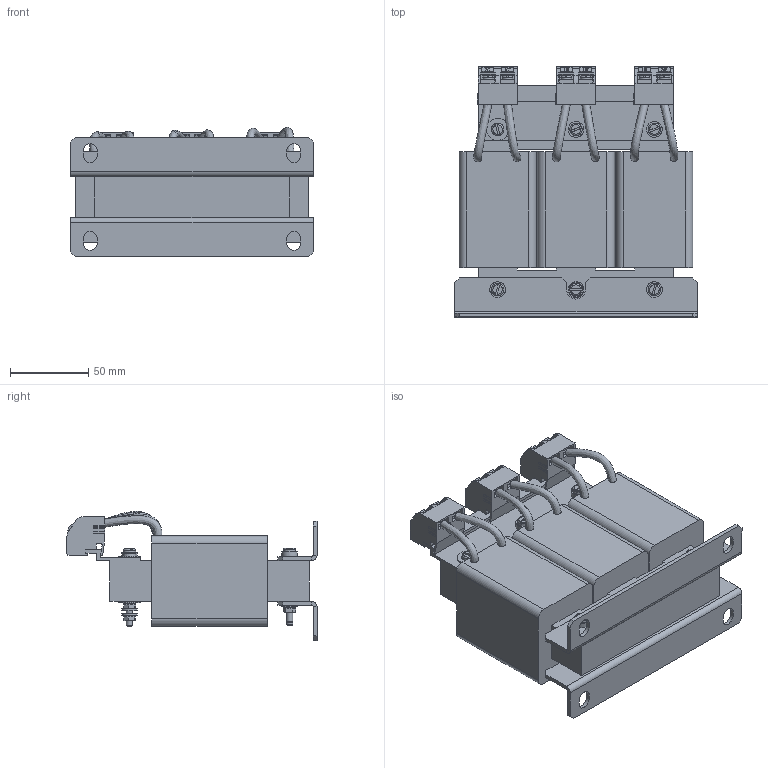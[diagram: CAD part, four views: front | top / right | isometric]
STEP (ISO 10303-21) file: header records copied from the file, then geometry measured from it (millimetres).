
FILE_DESCRIPTION(/* description */ ('raw material description'),/* implementation_level */ '2;1');
FILE_NAME(/* name */ 'P:\Construction\Filter_Marketing\RWK\RWK3044_RWK3062\RWK3044-18-89-E0XXX.stp',/* time_stamp */ '2018-08-27T09:49:46+02:00',/* author */ ('Erika.Jenzer'),/* organization */ ('Schaffner EMV AG'),/* preprocessor_version */ 'ST-DEVELOPER v16.5',/* originating_system */ 'Autodesk Inventor 2017',/* authorisation */ '');
FILE_SCHEMA (('AUTOMOTIVE_DESIGN { 1 0 10303 214 3 1 1 }'));
Length unit declared in the file: millimetre
Products named in the file (1): RWK3044-18-89-E0XXX
Bounding box: 155 x 159.65 x 82.46 mm (x, y, z)
Volume: 876555.9 mm3; surface area: 139102.4 mm2
Topology: 1 solids, 13 shells, 1566 faces, 4220 edges, 2776 vertices
Faces by surface type: plane 1177, cylinder 224, bspline 62, cone 51, torus 28, sphere 24
Full cylindrical faces by diameter (mm): 4 x25, 4.1 x6, 4.3 x4, 4.5 x1, 5.2 x5, 5.3 x11, 5.5 x6, 6.5 x6, 8 x1, 9 x2, 10 x11, 13 x1, 14 x2
Entity records: 51104 total; most frequent: CARTESIAN_POINT 10959, ORIENTED_EDGE 7982, DIRECTION 7680, EDGE_CURVE 3991, LINE 2832, VECTOR 2832, VERTEX_POINT 2695, AXIS2_PLACEMENT_3D 2424
